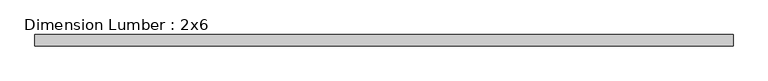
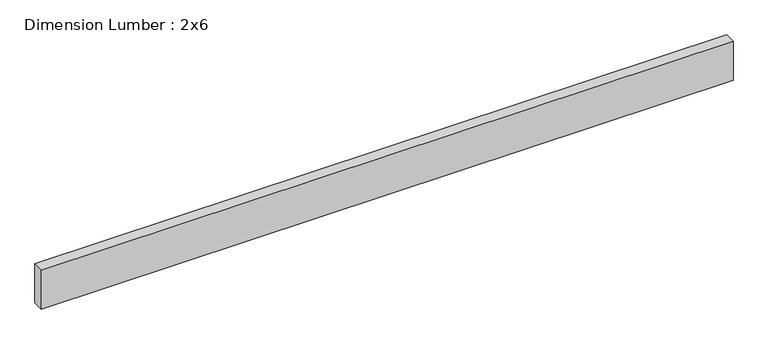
"""IFC4 building model written with IfcOpenShell, lengths in millimetres: beam geometry, Dimension Lumber : 2x6."""

from ifc_helpers import new_model, si_unit, frame, origin, place, context, project, spatial, polyline, outline, extrude, source, transform, mapped, element, save


def dimension_lumber_2x6_13f6f239(model_context):
    return source(origin(), model_context, "Body", "SweptSolid", [
        extrude(outline(polyline([(1181.1, 19.05), (1181.1, -19.05), (-1181.1, -19.05), (-1181.1, 19.05), (1181.1, 19.05)])), frame((0.0, 0.0, -69.85), z_axis=(0.0, 0.0, 1.0), x_axis=(1.0, 0.0, 0.0)), (0.0, 0.0, 1.0), 139.7),
    ])


if __name__ == "__main__":
    model = new_model("IFC4")
    model_context = context("Model", 3, world=origin())
    ifc_project = project(units=[si_unit("LENGTHUNIT", "METRE", prefix="MILLI")], contexts=[model_context])
    site = spatial("IfcSite", under=ifc_project)
    building = spatial("IfcBuilding", under=site)
    placement = place(None, origin())
    dimension_lumber_2x6_shape = dimension_lumber_2x6_13f6f239(model_context)
    element("IfcBeam", 1, ObjectType="Dimension Lumber : 2x6", at=placement, inside=building, context=model_context, shape_type="MappedRepresentation", body=[
        mapped(dimension_lumber_2x6_shape, transform((0.0, 0.0, 0.0), x_axis=(1.0, 0.0, 0.0), y_axis=(0.0, 1.0, 0.0), z_axis=(0.0, 0.0, 1.0))),
    ])
    save(model, "model.ifc")
